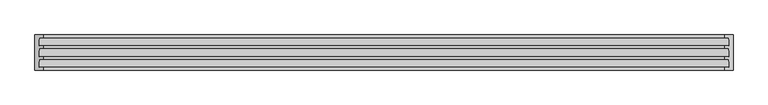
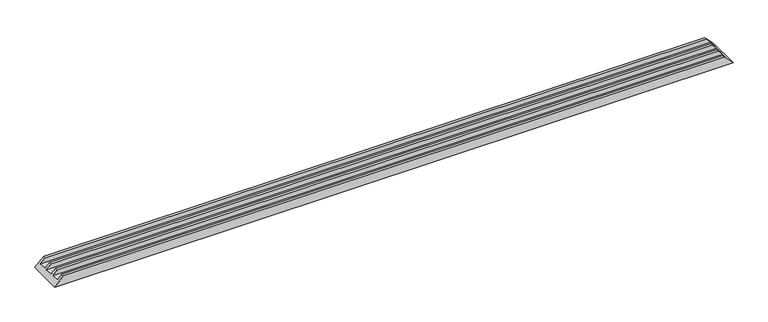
"""IFC4 building model written with IfcOpenShell, lengths in millimetres: proxy geometry, Weiku - Montante - Caixilho quadruplo 02.2.01.003-002 refilado : Weiku - Montante - Caixilho quadruplo 02.2.01.003-002 refilado."""

from ifc_helpers import new_model, si_unit, origin, place, context, project, spatial, faceted_brep, source, transform, mapped, element, save


def generic_models_e6eaea10(model_context):
    return source(origin(), model_context, "Body", "Brep", [
        faceted_brep([(-1971.0, 77.0, 26.0), (-1945.0, 77.0, 52.0), (1945.0, 77.0, 52.0), (1971.0, 77.0, 26.0), (-1973.2229744, 124.0, 23.7770256), (1973.2229744, 124.0, 23.7770256), (-1945.0, 124.0, 52.0), (1945.0, 124.0, 52.0), (-1945.0, 139.0, 52.0), (1945.0, 139.0, 52.0), (-1997.0, 201.0, 0.0), (1997.0, 201.0, 0.0), (1997.0, 0.0, 0.0), (-1997.0, 0.0, 0.0), (-1945.0, 62.0, 52.0), (1945.0, 62.0, 52.0), (-1971.0, 139.0, 26.0), (1971.0, 139.0, 26.0), (-1973.2229744, 186.0, 23.7770256), (1973.2229744, 186.0, 23.7770256), (-1945.0, 186.0, 52.0), (1945.0, 186.0, 52.0), (-1945.0, 201.0, 52.0), (1945.0, 201.0, 52.0), (1945.0, 0.0, 52.0), (-1945.0, 0.0, 52.0), (-1945.0, 15.0, 52.0), (1945.0, 15.0, 52.0), (-1971.0, 15.0, 26.0), (1971.0, 15.0, 26.0), (-1973.2229744, 62.0, 23.7770256), (1973.2229744, 62.0, 23.7770256)], [[[0, 1, 2, 3]], [[4, 0, 3, 5]], [[6, 4, 5, 7]], [[8, 6, 7, 9]], [[10, 11, 12, 13]], [[1, 14, 15, 2]], [[16, 8, 9, 17]], [[18, 16, 17, 19]], [[20, 18, 19, 21]], [[22, 20, 21, 23]], [[11, 10, 22, 23]], [[13, 12, 24, 25]], [[26, 25, 24, 27]], [[28, 26, 27, 29]], [[30, 28, 29, 31]], [[14, 30, 31, 15]], [[1, 0, 4, 6, 8, 16, 18, 20, 22, 10, 13, 25, 26, 28, 30, 14]], [[3, 2, 15, 31, 29, 27, 24, 12, 11, 23, 21, 19, 17, 9, 7, 5]]]),
    ])


if __name__ == "__main__":
    model = new_model("IFC4")
    model_context = context("Model", 3, world=origin())
    ifc_project = project(units=[si_unit("LENGTHUNIT", "METRE", prefix="MILLI")], contexts=[model_context])
    site = spatial("IfcSite", under=ifc_project)
    building = spatial("IfcBuilding", under=site)
    placement = place(None, origin())
    generic_models_shape = generic_models_e6eaea10(model_context)
    element("IfcBuildingElementProxy", 1, Name="Weiku - Montante - Caixilho quadruplo 02.2.01.003-002 refilado : Weiku - Montante - Caixilho quadruplo 02.2.01.003-002 refilado", ObjectType="Weiku - Montante - Caixilho quadruplo 02.2.01.003-002 refilado : Weiku - Montante - Caixilho quadruplo 02.2.01.003-002 refilado", at=placement, inside=building, context=model_context, shape_type="MappedRepresentation", body=[
        mapped(generic_models_shape, transform((0.0, 0.0, 0.0), x_axis=(1.0, 0.0, 0.0), y_axis=(0.0, 1.0, 0.0), z_axis=(0.0, 0.0, 1.0))),
    ])
    save(model, "model.ifc")
